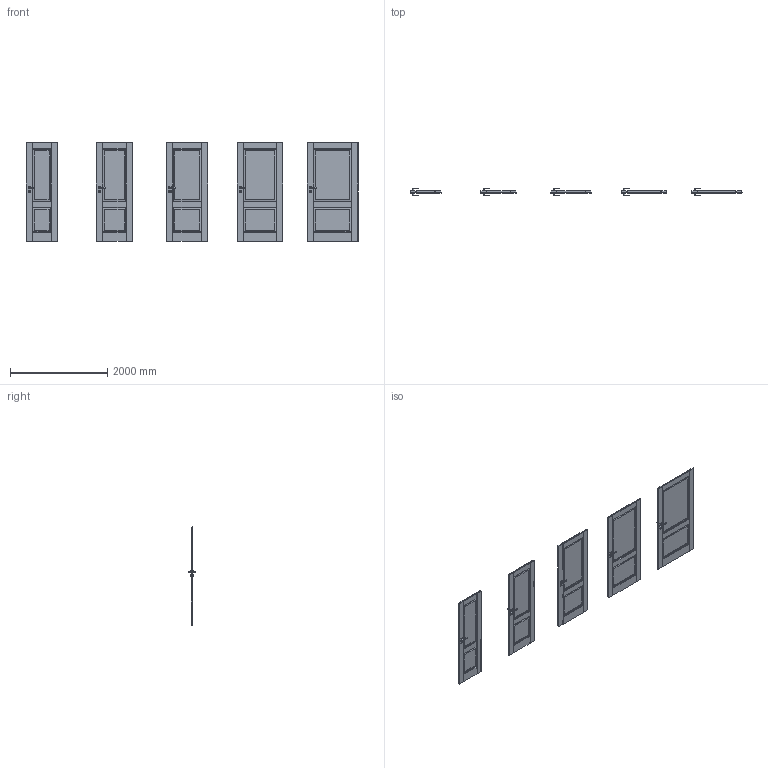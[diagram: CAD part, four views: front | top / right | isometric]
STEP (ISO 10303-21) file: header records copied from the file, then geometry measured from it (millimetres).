
FILE_DESCRIPTION(/* description */ (''),/* implementation_level */ '2;1');
FILE_NAME(/* name */ '050212_A_2-Skrzydło CORDOBA model pełne_ polska norma _PN__ przylgowe..stp',/* time_stamp */ '2025-01-09T12:53:28+01:00',/* author */ (''),/* organization */ (''),/* preprocessor_version */ 'ST-DEVELOPER v16',/* originating_system */ 'SIEMENS PLM Software NX 11.0',/* authorisation */ '');
FILE_SCHEMA (('AUTOMOTIVE_DESIGN { 1 0 10303 214 3 1 1 1 }'));
Products named in the file (1): bkni41204493tay4
Bounding box: 6844 x 153.13 x 2030 mm (x, y, z)
Volume: 225059130.7 mm3; surface area: 19981201 mm2
Topology: 25 solids, 25 shells, 1835 faces, 5035 edges, 3110 vertices
Faces by surface type: plane 1230, cylinder 305, bspline 160, sphere 140
Entity records: 62233 total; most frequent: CARTESIAN_POINT 16921, ORIENTED_EDGE 9790, DIRECTION 8757, EDGE_CURVE 4895, LINE 3745, VECTOR 3745, VERTEX_POINT 3110, AXIS2_PLACEMENT_3D 2506
